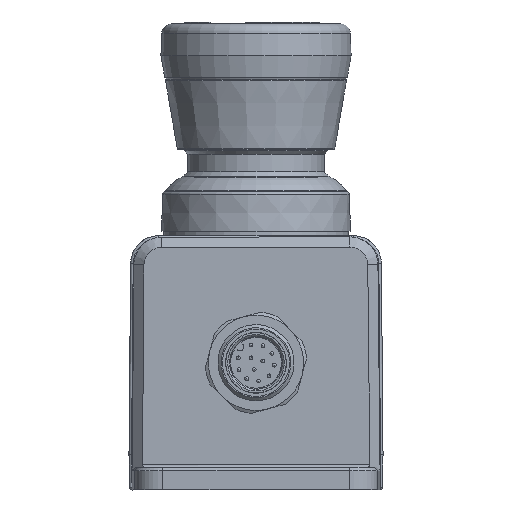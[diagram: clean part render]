
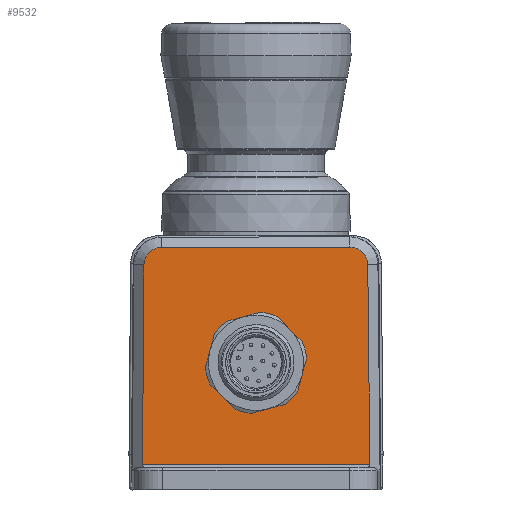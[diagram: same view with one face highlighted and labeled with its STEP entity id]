
A CAD part, front view. The second image highlights one B-rep face of the part: STEP entity #9532.
In plain terms, the highlighted planar face has unit normal (0, -1, 0).
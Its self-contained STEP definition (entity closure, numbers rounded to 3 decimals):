
#507=FACE_BOUND('',#2866,.T.);
#934=LINE('',#18320,#1452);
#966=LINE('',#18402,#1484);
#969=LINE('',#18413,#1487);
#972=LINE('',#18422,#1490);
#1452=VECTOR('',#13122,10.);
#1484=VECTOR('',#13198,10.);
#1487=VECTOR('',#13209,10.);
#1490=VECTOR('',#13220,10.);
#2249=FACE_OUTER_BOUND('',#2865,.T.);
#2865=EDGE_LOOP('',(#8301,#8302,#8303,#8304,#8305,#8306));
#2866=EDGE_LOOP('',(#8307));
#3485=CIRCLE('',#10615,6.05);
#3496=CIRCLE('',#10643,2.8);
#3498=CIRCLE('',#10647,2.8);
#4358=VERTEX_POINT('',#18309);
#4359=VERTEX_POINT('',#18313);
#4362=VERTEX_POINT('',#18318);
#4390=VERTEX_POINT('',#18400);
#4392=VERTEX_POINT('',#18406);
#4394=VERTEX_POINT('',#18411);
#4396=VERTEX_POINT('',#18418);
#5669=EDGE_CURVE('',#4358,#4358,#3485,.T.);
#5673=EDGE_CURVE('',#4362,#4359,#934,.T.);
#5714=EDGE_CURVE('',#4390,#4362,#966,.T.);
#5717=EDGE_CURVE('',#4392,#4390,#3496,.T.);
#5719=EDGE_CURVE('',#4394,#4392,#969,.T.);
#5723=EDGE_CURVE('',#4396,#4394,#3498,.T.);
#5724=EDGE_CURVE('',#4359,#4396,#972,.T.);
#8301=ORIENTED_EDGE('',*,*,#5673,.F.);
#8302=ORIENTED_EDGE('',*,*,#5714,.F.);
#8303=ORIENTED_EDGE('',*,*,#5717,.F.);
#8304=ORIENTED_EDGE('',*,*,#5719,.F.);
#8305=ORIENTED_EDGE('',*,*,#5723,.F.);
#8306=ORIENTED_EDGE('',*,*,#5724,.F.);
#8307=ORIENTED_EDGE('',*,*,#5669,.T.);
#9043=PLANE('',#10664);
#9532=ADVANCED_FACE('',(#2249,#507),#9043,.T.);
#10615=AXIS2_PLACEMENT_3D('',#18311,#13113,#13114);
#10643=AXIS2_PLACEMENT_3D('',#18408,#13204,#13205);
#10647=AXIS2_PLACEMENT_3D('',#18420,#13216,#13217);
#10664=AXIS2_PLACEMENT_3D('',#18463,#13267,#13268);
#13113=DIRECTION('center_axis',(0.,1.,0.));
#13114=DIRECTION('ref_axis',(-0.966,0.,0.259));
#13122=DIRECTION('',(-1.,0.,0.));
#13198=DIRECTION('',(0.009,0.,-1.));
#13204=DIRECTION('center_axis',(0.,1.,0.));
#13205=DIRECTION('ref_axis',(0.704,0.,0.71));
#13209=DIRECTION('',(1.,0.,0.));
#13216=DIRECTION('center_axis',(0.,1.,0.));
#13217=DIRECTION('ref_axis',(-0.704,0.,0.71));
#13220=DIRECTION('',(0.009,0.,1.));
#13267=DIRECTION('center_axis',(0.,-1.,0.));
#13268=DIRECTION('ref_axis',(-1.,0.,0.));
#18309=CARTESIAN_POINT('',(5.844,-7.,-1.566));
#18311=CARTESIAN_POINT('Origin',(0.,-7.,0.));
#18313=CARTESIAN_POINT('',(-17.896,-7.,-16.));
#18318=CARTESIAN_POINT('',(17.896,-7.,-16.));
#18320=CARTESIAN_POINT('',(9.75,-7.,-16.));
#18400=CARTESIAN_POINT('',(17.621,-7.,15.424));
#18402=CARTESIAN_POINT('',(17.828,-7.,-8.27));
#18406=CARTESIAN_POINT('',(14.821,-7.,18.2));
#18408=CARTESIAN_POINT('Origin',(14.821,-7.,15.4));
#18411=CARTESIAN_POINT('',(-14.821,-7.,18.2));
#18413=CARTESIAN_POINT('',(9.592,-7.,18.2));
#18418=CARTESIAN_POINT('',(-17.621,-7.,15.424));
#18420=CARTESIAN_POINT('Origin',(-14.821,-7.,15.4));
#18422=CARTESIAN_POINT('',(-17.67,-7.,9.88));
#18463=CARTESIAN_POINT('Origin',(0.,-7.,-0.18));
